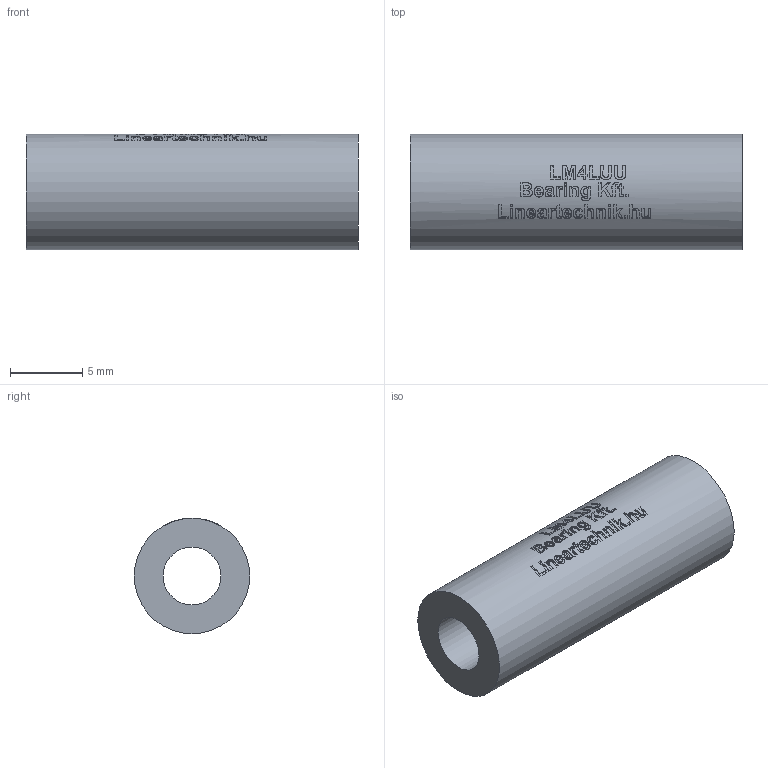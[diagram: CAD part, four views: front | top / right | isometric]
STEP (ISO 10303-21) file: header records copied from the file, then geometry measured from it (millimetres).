
FILE_DESCRIPTION(/* description */ (''),/* implementation_level */ '2;1');
FILE_NAME(/* name */ 'LM4LUU',/* time_stamp */ '2019-05-16T09:39:01+02:00',/* author */ ('VĂ©gh MĂˇtĂ©'),/* organization */ ('Bearing Kft'),/* preprocessor_version */ 'ST-DEVELOPER v16.7',/* originating_system */ 'DEX',/* authorisation */ $);
FILE_SCHEMA (('AP203_CONFIGURATION_CONTROLLED_3D_DESIGN_OF_MECHANICAL_PARTS_AND_ASSEMBLIES_MIM_LF { 1 0 10303 203 3 1 4 }','AUTOMOTIVE_DESIGN {1 0 10303 214 3 1 1}'));
Length unit declared in the file: millimetre
Products named in the file (1): LM4LUU
Bounding box: 23 x 8 x 8 mm (x, y, z)
Volume: 866.1 mm3; surface area: 954.5 mm2
Topology: 1 solids, 1 shells, 302 faces, 765 edges, 509 vertices
Faces by surface type: plane 165, bspline 90, cylinder 47
Full cylindrical faces by diameter (mm): 4 x1, 8 x1
Entity records: 13767 total; most frequent: CARTESIAN_POINT 6927, ORIENTED_EDGE 1524, DIRECTION 1151, EDGE_CURVE 762, VERTEX_POINT 509, LINE 433, VECTOR 433, AXIS2_PLACEMENT_3D 359
